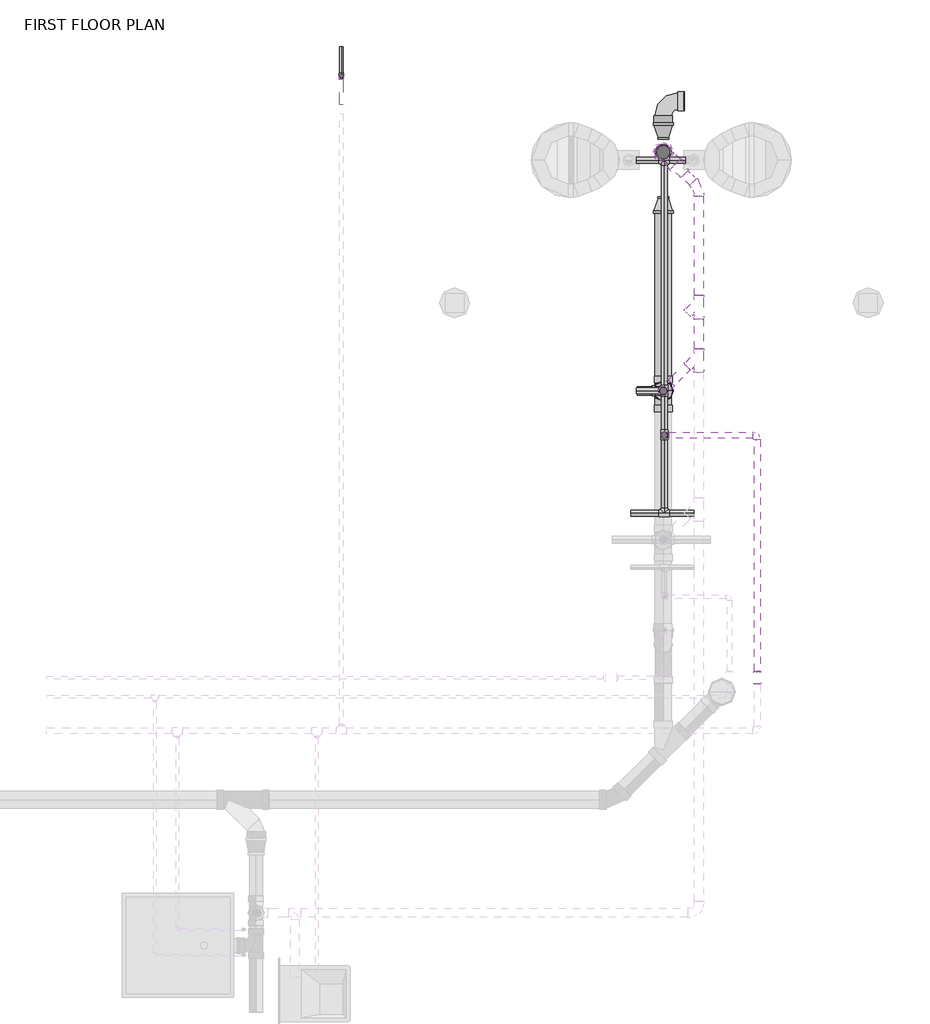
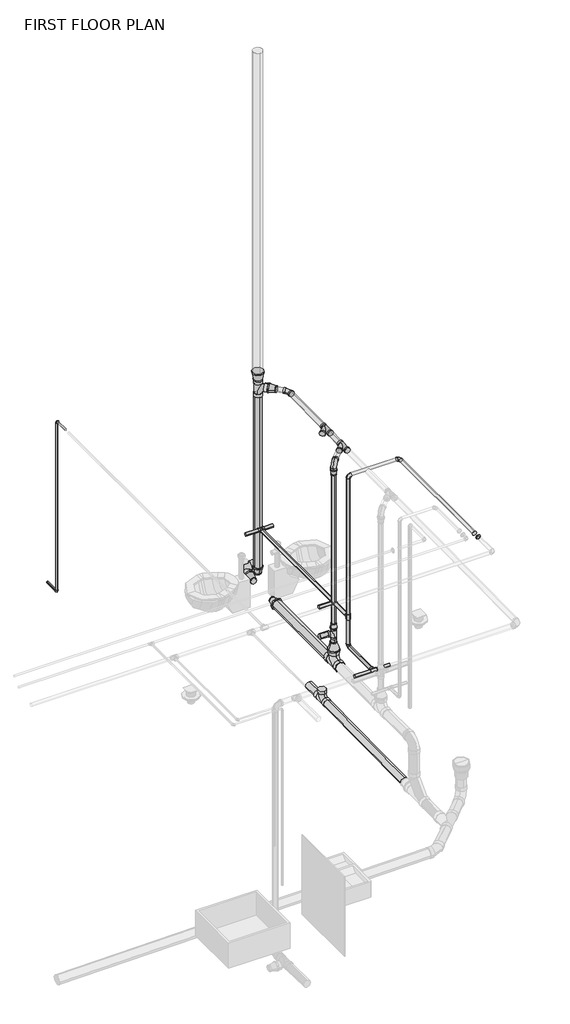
# One storey, part 9 of 9: 29 pipe segments, 28 pipe fittings.
"""IFC4 building model written with IfcOpenShell, lengths in millimetres."""

from ifc_helpers import new_model, si_unit, point, frame, frame_2d, origin, place, context, project, spatial, circle_curve, trimmed, segment, composite_curve, outline, extrude, transform, mapped, element, save
from components import bend_pvc_sch_40_dwv_standard_1fb0f857, bend_pvc_sch_40_dwv_standard_8477e1e2, bend_pvc_sch_40_dwv_standard_6afe43e3, coupling_concentric_reducing_threaded_mi_class_150_standard_e5de6db7, coupling_concentric_reducing_threaded_mi_class_150_standard_b08cc743, coupling_concentric_reducing_threaded_mi_class_150_standard_6ad044ed, coupling_concentric_reducing_threaded_mi_class_150_standard_42f7e852, coupling_concentric_reducing_threaded_mi_class_150_standard_f28a3886, coupling_concentric_reducing_threaded_mi_class_150_standard_510ae21c, coupling_concentric_reducing_threaded_mi_class_150_standard_07b3985c, ges_wye_45_deg_reducing_pvc_sch_40_dwv_standard_a890de96, ges_wye_45_deg_reducing_pvc_sch_40_dwv_standard_77a13697, pipe_elbow_copper_k_feaaf02c, pipe_elbow_copper_k_557be1fc, pipe_tee_copper_k_7127fd44, pipe_transition_copper_k_c7248b3c, tee_sanitary_pvc_sch_40_dwv_standard_dcb2d9f4, tee_sanitary_pvc_sch_40_dwv_standard_21fefaed, tee_sanitary_pvc_sch_40_dwv_standard_c52e2169, tee_sanitary_pvc_sch_40_dwv_standard_29521979

model = new_model("IFC4")

# Units and contexts
model_context = context("Model", 3, world=origin())
ifc_project = project(units=[si_unit("LENGTHUNIT", "METRE", prefix="MILLI")], contexts=[model_context])

# Site, building, storey
site = spatial("IfcSite", under=ifc_project)
building = spatial("IfcBuilding", under=site)
storey = spatial("IfcBuildingStorey", under=building, Name="FIRST FLOOR PLAN", Elevation=0.0)

# Pipe fittings
placement = place(None, origin())
bend_pvc_sch_40_dwv_standard_shape = bend_pvc_sch_40_dwv_standard_1fb0f857(model_context)
element("IfcPipeFitting", 1, ObjectType="Bend - PVC - Sch 40 - DWV : Standard", at=placement, inside=storey, context=model_context, shape_type="MappedRepresentation", body=[
    mapped(bend_pvc_sch_40_dwv_standard_shape, transform((37521.1703511, 9997.0254146, 236.474), x_axis=(-1.0, 0.0, 0.0), y_axis=(0.0, -1.0, 0.0), z_axis=(0.0, 0.0, 1.0))),
])
bend_pvc_sch_40_dwv_standard_2_shape = bend_pvc_sch_40_dwv_standard_8477e1e2(model_context)
element("IfcPipeFitting", 2, ObjectType="Bend - PVC - Sch 40 - DWV : Standard", at=placement, inside=storey, context=model_context, shape_type="MappedRepresentation", body=[
    mapped(bend_pvc_sch_40_dwv_standard_2_shape, transform((37765.6323727, 9404.4624707, 2845.1446491), x_axis=(0.0, 0.9999457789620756, 0.010413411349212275), y_axis=(-0.9999906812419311, -4.495583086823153e-05, 0.004316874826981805), z_axis=(0.0043171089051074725, -0.01041331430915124, 0.9999364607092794))),
])
bend_pvc_sch_40_dwv_standard_3_shape = bend_pvc_sch_40_dwv_standard_6afe43e3(model_context)
element("IfcPipeFitting", 3, ObjectType="Bend - PVC - Sch 40 - DWV : Standard", at=placement, inside=storey, context=model_context, shape_type="MappedRepresentation", body=[
    mapped(bend_pvc_sch_40_dwv_standard_3_shape, transform((37521.0771249, 8018.3324297, 2831.6578247), x_axis=(0.0, 0.0, 1.0), y_axis=(0.7071188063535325, 0.7070947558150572, 0.0), z_axis=(-0.7070947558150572, 0.7071188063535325, 0.0))),
])
coupling_concentric_reducing_threaded_mi_class_150_standard_shape = coupling_concentric_reducing_threaded_mi_class_150_standard_e5de6db7(model_context)
element("IfcPipeFitting", 4, ObjectType="Coupling Concentric Reducing - Threaded - MI - Class 150 : Standard", at=placement, inside=storey, context=model_context, shape_type="MappedRepresentation", body=[
    mapped(coupling_concentric_reducing_threaded_mi_class_150_standard_shape, transform((37521.1703511, 9737.7105294, 236.474), x_axis=(0.0, 1.0, 0.0), y_axis=(-1.0, 0.0, 0.0), z_axis=(0.0, 0.0, 1.0))),
])
coupling_concentric_reducing_threaded_mi_class_150_standard_2_shape = coupling_concentric_reducing_threaded_mi_class_150_standard_b08cc743(model_context)
element("IfcPipeFitting", 5, ObjectType="Coupling Concentric Reducing - Threaded - MI - Class 150 : Standard", at=placement, inside=storey, context=model_context, shape_type="MappedRepresentation", body=[
    mapped(coupling_concentric_reducing_threaded_mi_class_150_standard_2_shape, transform((37521.1703511, 9232.7105294, 236.474), x_axis=(0.0, 1.0, 0.0), y_axis=(-1.0, 0.0, 0.0), z_axis=(0.0, 0.0, 1.0))),
])
element("IfcPipeFitting", 6, ObjectType="Coupling Concentric Reducing - Threaded - MI - Class 150 : Standard", at=placement, inside=storey, context=model_context, shape_type="MappedRepresentation", body=[
    mapped(coupling_concentric_reducing_threaded_mi_class_150_standard_2_shape, transform((37521.0771249, 8018.3324297, 379.349), x_axis=(0.0, 0.0, 1.0), y_axis=(-1.0, 0.0, 0.0), z_axis=(0.0, -1.0, 0.0))),
])
coupling_concentric_reducing_threaded_mi_class_150_standard_3_shape = coupling_concentric_reducing_threaded_mi_class_150_standard_6ad044ed(model_context)
element("IfcPipeFitting", 7, ObjectType="Coupling Concentric Reducing - Threaded - MI - Class 150 : Standard", at=placement, inside=storey, context=model_context, shape_type="MappedRepresentation", body=[
    mapped(coupling_concentric_reducing_threaded_mi_class_150_standard_3_shape, transform((37521.0771249, 8018.3324297, 664.4328283), x_axis=(0.0, 0.0, 1.0), y_axis=(-1.0, 0.0, 0.0), z_axis=(0.0, -1.0, 0.0))),
])
coupling_concentric_reducing_threaded_mi_class_150_standard_4_shape = coupling_concentric_reducing_threaded_mi_class_150_standard_42f7e852(model_context)
element("IfcPipeFitting", 8, ObjectType="Coupling Concentric Reducing - Threaded - MI - Class 150 : Standard", at=placement, inside=storey, context=model_context, shape_type="MappedRepresentation", body=[
    mapped(coupling_concentric_reducing_threaded_mi_class_150_standard_4_shape, transform((37521.0459599, 9649.0444412, 395.224), x_axis=(0.0, 0.0, 1.0), y_axis=(0.0, 1.0, 0.0), z_axis=(-1.0, 0.0, 0.0))),
])
coupling_concentric_reducing_threaded_mi_class_150_standard_5_shape = coupling_concentric_reducing_threaded_mi_class_150_standard_f28a3886(model_context)
element("IfcPipeFitting", 9, ObjectType="Coupling Concentric Reducing - Threaded - MI - Class 150 : Standard", at=placement, inside=storey, context=model_context, shape_type="MappedRepresentation", body=[
    mapped(coupling_concentric_reducing_threaded_mi_class_150_standard_5_shape, transform((37521.0771249, 8018.3324297, 2682.4576247), x_axis=(0.0, 0.0, 1.0), y_axis=(-0.7071259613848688, 0.7070876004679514, 0.0), z_axis=(-0.7070876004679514, -0.7071259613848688, 0.0))),
])
coupling_concentric_reducing_threaded_mi_class_150_standard_6_shape = coupling_concentric_reducing_threaded_mi_class_150_standard_510ae21c(model_context)
element("IfcPipeFitting", 10, ObjectType="Coupling Concentric Reducing - Threaded - MI - Class 150 : Standard", at=placement, inside=storey, context=model_context, shape_type="MappedRepresentation", body=[
    mapped(coupling_concentric_reducing_threaded_mi_class_150_standard_6_shape, transform((37602.9911958, 9567.0983439, 2848.3373916), x_axis=(0.7070327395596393, -0.7070401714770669, -0.01410323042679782), y_axis=(0.7071104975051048, 0.7071030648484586, 0.0), z_axis=(0.009972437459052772, -0.009972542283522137, 0.9999005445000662))),
])
coupling_concentric_reducing_threaded_mi_class_150_standard_7_shape = coupling_concentric_reducing_threaded_mi_class_150_standard_07b3985c(model_context)
element("IfcPipeFitting", 11, ObjectType="Coupling Concentric Reducing - Threaded - MI - Class 150 : Standard", at=placement, inside=storey, context=model_context, shape_type="MappedRepresentation", body=[
    mapped(coupling_concentric_reducing_threaded_mi_class_150_standard_7_shape, transform((37521.0459599, 9649.0444412, 2937.2363254), x_axis=(0.0, 0.0, 1.0), y_axis=(-0.7071030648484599, 0.7071104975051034, 0.0), z_axis=(-0.7071104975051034, -0.7071030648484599, 0.0))),
])
ges_wye_45_deg_reducing_pvc_sch_40_dwv_standard_shape = ges_wye_45_deg_reducing_pvc_sch_40_dwv_standard_a890de96(model_context)
element("IfcPipeFitting", 12, ObjectType="GES Wye 45 Deg Reducing - PVC - Sch 40 - DWV : Standard", at=placement, inside=storey, context=model_context, shape_type="MappedRepresentation", body=[
    mapped(ges_wye_45_deg_reducing_pvc_sch_40_dwv_standard_shape, transform((37765.6323727, 8262.8793597, 2833.3115576), x_axis=(0.0, 0.9999457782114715, 0.01041348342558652), y_axis=(0.9999933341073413, 3.80223943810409e-05, -0.0036510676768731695), z_axis=(-0.003651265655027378, 0.0104134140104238, -0.9999391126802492))),
])
ges_wye_45_deg_reducing_pvc_sch_40_dwv_standard_2_shape = ges_wye_45_deg_reducing_pvc_sch_40_dwv_standard_77a13697(model_context)
element("IfcPipeFitting", 13, ObjectType="GES Wye 45 Deg Reducing - PVC - Sch 40 - DWV : Standard", at=placement, inside=storey, context=model_context, shape_type="MappedRepresentation", body=[
    mapped(ges_wye_45_deg_reducing_pvc_sch_40_dwv_standard_2_shape, transform((37765.6323727, 8627.6807994, 2837.1106024), x_axis=(0.0, 0.999945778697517, 0.010413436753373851), y_axis=(0.9999999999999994, -3.585833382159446e-10, 3.443281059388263e-08), z_axis=(3.44346776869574e-08, 0.010413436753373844, -0.9999457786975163))),
])
pipe_elbow_copper_k_shape = pipe_elbow_copper_k_feaaf02c(model_context)
element("IfcPipeFitting", 14, ObjectType="Pipe Elbow : Copper- K", at=placement, inside=storey, context=model_context, shape_type="MappedRepresentation", body=[
    mapped(pipe_elbow_copper_k_shape, transform((35321.9240213, 10166.9205406, 2847.578125), x_axis=(0.0, 1.0, 0.0), y_axis=(0.0, 0.0, -1.0), z_axis=(-1.0, 0.0, 0.0))),
])
element("IfcPipeFitting", 15, ObjectType="Pipe Elbow : Copper- K", at=placement, inside=storey, context=model_context, shape_type="MappedRepresentation", body=[
    mapped(pipe_elbow_copper_k_shape, transform((35321.9240213, 10166.9205406, 609.6), x_axis=(0.0, 0.0, -1.0), y_axis=(0.0, 1.0, 0.0), z_axis=(1.0, 0.0, 0.0))),
])
pipe_elbow_copper_k_2_shape = pipe_elbow_copper_k_557be1fc(model_context)
element("IfcPipeFitting", 16, ObjectType="Pipe Elbow : Copper- K", at=placement, inside=storey, context=model_context, shape_type="MappedRepresentation", body=[
    mapped(pipe_elbow_copper_k_2_shape, transform((38162.9555388, 7715.2433828, 2847.578125), x_axis=(0.0, 0.9999999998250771, 1.870416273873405e-05), y_axis=(-1.0, 0.0, 0.0), z_axis=(0.0, -1.870416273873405e-05, 0.9999999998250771))),
])
element("IfcPipeFitting", 17, ObjectType="Pipe Elbow : Copper- K", at=placement, inside=storey, context=model_context, shape_type="MappedRepresentation", body=[
    mapped(pipe_elbow_copper_k_2_shape, transform((37527.9555388, 7715.2433828, 2847.578125), x_axis=(-1.0, 0.0, 0.0), y_axis=(0.0, 0.0, -1.0), z_axis=(0.0, -1.0, 0.0))),
])
element("IfcPipeFitting", 18, ObjectType="Pipe Elbow : Copper- K", at=placement, inside=storey, context=model_context, shape_type="MappedRepresentation", body=[
    mapped(pipe_elbow_copper_k_2_shape, transform((37527.9555388, 7715.2433828, 612.378125), x_axis=(0.0, 0.0, -1.0), y_axis=(0.0, -1.0, 0.0), z_axis=(-1.0, 0.0, 0.0))),
])
pipe_tee_copper_k_shape = pipe_tee_copper_k_7127fd44(model_context)
element("IfcPipeFitting", 19, ObjectType="Pipe Tee : Copper- K", at=placement, inside=storey, context=model_context, shape_type="MappedRepresentation", body=[
    mapped(pipe_tee_copper_k_shape, transform((37527.9555388, 7181.8433828, 612.378125), x_axis=(-1.0, 0.0, 0.0), y_axis=(0.0, -1.0, 0.0), z_axis=(0.0, 0.0, 1.0))),
])
element("IfcPipeFitting", 20, ObjectType="Pipe Tee : Copper- K", at=placement, inside=storey, context=model_context, shape_type="MappedRepresentation", body=[
    mapped(pipe_tee_copper_k_shape, transform((37527.9555388, 7715.2433828, 999.6546981), x_axis=(0.0, 0.0, 1.0), y_axis=(0.0, -1.0, 0.0), z_axis=(1.0, 0.0, 0.0))),
])
element("IfcPipeFitting", 21, ObjectType="Pipe Tee : Copper- K", at=placement, inside=storey, context=model_context, shape_type="MappedRepresentation", body=[
    mapped(pipe_tee_copper_k_shape, transform((37527.9555388, 9594.8433828, 999.6546981), x_axis=(-0.999999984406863, 0.0, 0.00017659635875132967), y_axis=(0.0, 1.0000000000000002, 0.0), z_axis=(-0.00017659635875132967, 0.0, -0.999999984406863))),
])
element("IfcPipeFitting", 22, ObjectType="Pipe Tee : Copper- K", at=placement, inside=storey, context=model_context, shape_type="MappedRepresentation", body=[
    mapped(pipe_tee_copper_k_shape, transform((37527.9555388, 8020.0433828, 999.6546981), x_axis=(0.0, -1.0, 0.0), y_axis=(0.999999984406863, 0.0, -0.00017659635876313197), z_axis=(0.00017659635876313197, 0.0, 0.999999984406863))),
])
pipe_transition_copper_k_shape = pipe_transition_copper_k_c7248b3c(model_context)
element("IfcPipeFitting", 23, ObjectType="Pipe Transition : Copper- K", at=placement, inside=storey, context=model_context, shape_type="MappedRepresentation", body=[
    mapped(pipe_transition_copper_k_shape, transform((38162.9555388, 6013.5885474, 2847.5469472), x_axis=(0.0, 0.9999999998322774, 1.8315168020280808e-05), y_axis=(-1.0000000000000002, 0.0, 0.0), z_axis=(0.0, -1.8315168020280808e-05, 0.9999999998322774))),
])
element("IfcPipeFitting", 24, ObjectType="Pipe Transition : Copper- K", at=placement, inside=storey, context=model_context, shape_type="MappedRepresentation", body=[
    mapped(pipe_transition_copper_k_shape, transform((38162.9555388, 6104.8062974, 2847.5486178), x_axis=(0.0, -0.9999999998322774, -1.8315168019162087e-05), y_axis=(1.0000000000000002, 0.0, 0.0), z_axis=(0.0, -1.8315168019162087e-05, 0.9999999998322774))),
])
tee_sanitary_pvc_sch_40_dwv_standard_shape = tee_sanitary_pvc_sch_40_dwv_standard_dcb2d9f4(model_context)
element("IfcPipeFitting", 25, ObjectType="Tee Sanitary - PVC - Sch 40 - DWV : Standard", at=placement, inside=storey, context=model_context, shape_type="MappedRepresentation", body=[
    mapped(tee_sanitary_pvc_sch_40_dwv_standard_shape, transform((37521.1703511, 8018.2530175, 236.474), x_axis=(0.0, 1.0, 0.0), y_axis=(0.0, 0.0, -1.0), z_axis=(-1.0, 0.0, 0.0))),
])
tee_sanitary_pvc_sch_40_dwv_standard_2_shape = tee_sanitary_pvc_sch_40_dwv_standard_21fefaed(model_context)
element("IfcPipeFitting", 26, ObjectType="Tee Sanitary - PVC - Sch 40 - DWV : Standard", at=placement, inside=storey, context=model_context, shape_type="MappedRepresentation", body=[
    mapped(tee_sanitary_pvc_sch_40_dwv_standard_2_shape, transform((37521.0771249, 8018.3324297, 610.4573418), x_axis=(0.0, 0.0, 1.0), y_axis=(1.0, 0.0, 0.0), z_axis=(0.0, 1.0, 0.0))),
])
tee_sanitary_pvc_sch_40_dwv_standard_3_shape = tee_sanitary_pvc_sch_40_dwv_standard_c52e2169(model_context)
element("IfcPipeFitting", 27, ObjectType="Tee Sanitary - PVC - Sch 40 - DWV : Standard", at=placement, inside=storey, context=model_context, shape_type="MappedRepresentation", body=[
    mapped(tee_sanitary_pvc_sch_40_dwv_standard_3_shape, transform((37521.0459599, 9649.0444412, 2849.9719588), x_axis=(0.0, 0.0, 1.0), y_axis=(-0.7071030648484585, 0.7071104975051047, 0.0), z_axis=(-0.7071104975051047, -0.7071030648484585, 0.0))),
])
tee_sanitary_pvc_sch_40_dwv_standard_4_shape = tee_sanitary_pvc_sch_40_dwv_standard_29521979(model_context)
element("IfcPipeFitting", 28, ObjectType="Tee Sanitary - PVC - Sch 40 - DWV : Standard", at=placement, inside=storey, context=model_context, shape_type="MappedRepresentation", body=[
    mapped(tee_sanitary_pvc_sch_40_dwv_standard_4_shape, transform((37521.1938332, 8268.031938, -404.5109824), x_axis=(-2.3000987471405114e-08, 0.9999201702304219, 0.012635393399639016), y_axis=(-2.9064972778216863e-10, 0.012635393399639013, -0.9999201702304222), z_axis=(-0.9999999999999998, -2.3002823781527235e-08, 0.0))),
])

# Pipe segments
element("IfcPipeSegment", 29, ObjectType="Copper", at=placement, inside=storey, context=model_context, shape_type="SweptSolid", body=[
    extrude(outline(composite_curve([segment(trimmed(circle_curve(frame_2d((0.0, 20.6375)), 20.6375), [point((0.0, 41.275))], [point((20.6375, 20.6375))], False, "CARTESIAN"), True, "CONTINUOUS"), segment(trimmed(circle_curve(frame_2d((0.0, 20.6375)), 20.6375), [point((20.6375, 20.6375))], [point((0.0, 0.0))], False, "CARTESIAN"), True, "CONTINUOUS"), segment(trimmed(circle_curve(frame_2d((0.0, 20.6375)), 20.6375), [point((0.0, 0.0))], [point((-20.6375, 20.6375))], False, "CARTESIAN"), True, "CONTINUOUS"), segment(trimmed(circle_curve(frame_2d((0.0, 20.6375)), 20.6375), [point((-20.6375, 20.6375))], [point((0.0, 41.275))], False, "CARTESIAN"), True, "CONTINUOUS")], self_intersect=False)), frame((38142.3180388, 6104.8062974, 2847.5486178), z_axis=(0.0, 0.9999999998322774, 1.831516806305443e-05), x_axis=(0.0, -1.831516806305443e-05, 0.9999999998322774)), (0.0, 0.0, 1.0), 1580.2745857),
])
element("IfcPipeSegment", 30, ObjectType="Copper", at=placement, inside=storey, context=model_context, shape_type="SweptSolid", body=[
    extrude(outline(composite_curve([segment(trimmed(circle_curve(frame_2d((7715.2433828, 2847.578125)), 20.6375), [point((7735.8808828, 2847.578125))], [point((7715.2433828, 2826.940625))], False, "CARTESIAN"), True, "CONTINUOUS"), segment(trimmed(circle_curve(frame_2d((7715.2433828, 2847.578125)), 20.6375), [point((7715.2433828, 2826.940625))], [point((7694.6058828, 2847.578125))], False, "CARTESIAN"), True, "CONTINUOUS"), segment(trimmed(circle_curve(frame_2d((7715.2433828, 2847.578125)), 20.6375), [point((7694.6058828, 2847.578125))], [point((7715.2433828, 2868.215625))], False, "CARTESIAN"), True, "CONTINUOUS"), segment(trimmed(circle_curve(frame_2d((7715.2433828, 2847.578125)), 20.6375), [point((7715.2433828, 2868.215625))], [point((7735.8808828, 2847.578125))], False, "CARTESIAN"), True, "CONTINUOUS")], self_intersect=False)), frame((37558.1180388, 0.0, 0.0), z_axis=(1.0, 0.0, 0.0), x_axis=(0.0, 1.0, 0.0)), (0.0, 0.0, 1.0), 574.675),
])
element("IfcPipeSegment", 31, ObjectType="Copper", at=placement, inside=storey, context=model_context, shape_type="SweptSolid", body=[
    extrude(outline(composite_curve([segment(trimmed(circle_curve(frame_2d((612.378125, 37527.9555388)), 20.6375), [point((612.378125, 37507.3180388))], [point((591.740625, 37527.9555388))], False, "CARTESIAN"), True, "CONTINUOUS"), segment(trimmed(circle_curve(frame_2d((612.378125, 37527.9555388)), 20.6375), [point((591.740625, 37527.9555388))], [point((612.378125, 37548.5930388))], False, "CARTESIAN"), True, "CONTINUOUS"), segment(trimmed(circle_curve(frame_2d((612.378125, 37527.9555388)), 20.6375), [point((612.378125, 37548.5930388))], [point((633.015625, 37527.9555388))], False, "CARTESIAN"), True, "CONTINUOUS"), segment(trimmed(circle_curve(frame_2d((612.378125, 37527.9555388)), 20.6375), [point((633.015625, 37527.9555388))], [point((612.378125, 37507.3180388))], False, "CARTESIAN"), True, "CONTINUOUS")], self_intersect=False)), frame((0.0, 7218.3558828, 0.0), z_axis=(0.0, 1.0, 0.0), x_axis=(0.0, 0.0, 1.0)), (0.0, 0.0, 1.0), 466.725),
])
element("IfcPipeSegment", 32, ObjectType="Copper", at=placement, inside=storey, context=model_context, shape_type="SweptSolid", body=[
    extrude(outline(composite_curve([segment(trimmed(circle_curve(frame_2d((7181.8433828, 612.378125)), 20.6375), [point((7161.2058828, 612.378125))], [point((7181.8433828, 633.015625))], False, "CARTESIAN"), True, "CONTINUOUS"), segment(trimmed(circle_curve(frame_2d((7181.8433828, 612.378125)), 20.6375), [point((7181.8433828, 633.015625))], [point((7202.4808828, 612.378125))], False, "CARTESIAN"), True, "CONTINUOUS"), segment(trimmed(circle_curve(frame_2d((7181.8433828, 612.378125)), 20.6375), [point((7202.4808828, 612.378125))], [point((7181.8433828, 591.740625))], False, "CARTESIAN"), True, "CONTINUOUS"), segment(trimmed(circle_curve(frame_2d((7181.8433828, 612.378125)), 20.6375), [point((7181.8433828, 591.740625))], [point((7161.2058828, 612.378125))], False, "CARTESIAN"), True, "CONTINUOUS")], self_intersect=False)), frame((37564.4680388, 0.0, 0.0), z_axis=(1.0, 0.0, 0.0), x_axis=(0.0, 1.0, 0.0)), (0.0, 0.0, 1.0), 166.6875),
])
element("IfcPipeSegment", 33, ObjectType="Copper", at=placement, inside=storey, context=model_context, shape_type="SweptSolid", body=[
    extrude(outline(composite_curve([segment(trimmed(circle_curve(frame_2d((7181.8433828, 612.378125)), 20.6375), [point((7161.2058828, 612.378125))], [point((7181.8433828, 633.015625))], False, "CARTESIAN"), True, "CONTINUOUS"), segment(trimmed(circle_curve(frame_2d((7181.8433828, 612.378125)), 20.6375), [point((7181.8433828, 633.015625))], [point((7202.4808828, 612.378125))], False, "CARTESIAN"), True, "CONTINUOUS"), segment(trimmed(circle_curve(frame_2d((7181.8433828, 612.378125)), 20.6375), [point((7202.4808828, 612.378125))], [point((7181.8433828, 591.740625))], False, "CARTESIAN"), True, "CONTINUOUS"), segment(trimmed(circle_curve(frame_2d((7181.8433828, 612.378125)), 20.6375), [point((7181.8433828, 591.740625))], [point((7161.2058828, 612.378125))], False, "CARTESIAN"), True, "CONTINUOUS")], self_intersect=False)), frame((37299.3555388, 0.0, 0.0), z_axis=(1.0, 0.0, 0.0), x_axis=(0.0, 1.0, 0.0)), (0.0, 0.0, 1.0), 192.0875),
])
element("IfcPipeSegment", 34, ObjectType="Copper", at=placement, inside=storey, context=model_context, shape_type="SweptSolid", body=[
    extrude(outline(composite_curve([segment(trimmed(circle_curve(frame_2d((37527.9555388, 7715.2433828)), 20.6375), [point((37548.5930388, 7715.2433828))], [point((37527.9555388, 7694.6058828))], False, "CARTESIAN"), True, "CONTINUOUS"), segment(trimmed(circle_curve(frame_2d((37527.9555388, 7715.2433828)), 20.6375), [point((37527.9555388, 7694.6058828))], [point((37507.3180388, 7715.2433828))], False, "CARTESIAN"), True, "CONTINUOUS"), segment(trimmed(circle_curve(frame_2d((37527.9555388, 7715.2433828)), 20.6375), [point((37507.3180388, 7715.2433828))], [point((37527.9555388, 7735.8808828))], False, "CARTESIAN"), True, "CONTINUOUS"), segment(trimmed(circle_curve(frame_2d((37527.9555388, 7715.2433828)), 20.6375), [point((37527.9555388, 7735.8808828))], [point((37548.5930388, 7715.2433828))], False, "CARTESIAN"), True, "CONTINUOUS")], self_intersect=False)), frame((0.0, 0.0, 642.540625), z_axis=(0.0, 0.0, 1.0), x_axis=(1.0, 0.0, 0.0)), (0.0, 0.0, 1.0), 320.6015731),
])
element("IfcPipeSegment", 35, ObjectType="Copper", at=placement, inside=storey, context=model_context, shape_type="SweptSolid", body=[
    extrude(outline(composite_curve([segment(trimmed(circle_curve(frame_2d((0.0, -20.6375)), 20.6375), [point((-20.6375, -20.6375))], [point((0.0, 0.0))], False, "CARTESIAN"), True, "CONTINUOUS"), segment(trimmed(circle_curve(frame_2d((0.0, -20.6375)), 20.6375), [point((0.0, 0.0))], [point((20.6375, -20.6375))], False, "CARTESIAN"), True, "CONTINUOUS"), segment(trimmed(circle_curve(frame_2d((0.0, -20.6375)), 20.6375), [point((20.6375, -20.6375))], [point((0.0, -41.2749999))], False, "CARTESIAN"), True, "CONTINUOUS"), segment(trimmed(circle_curve(frame_2d((0.0, -20.6375)), 20.6375), [point((0.0, -41.2749999))], [point((-20.6375, -20.6375))], False, "CARTESIAN"), True, "CONTINUOUS")], self_intersect=False)), frame((37674.0018943, 9594.8433828, 978.9914066), z_axis=(-0.999999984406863, 0.0, 0.00017659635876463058), x_axis=(0.0, 1.0, 0.0)), (0.0, 0.0, 1.0), 109.5375023),
])
element("IfcPipeSegment", 36, ObjectType="Copper", at=placement, inside=storey, context=model_context, shape_type="SweptSolid", body=[
    extrude(outline(composite_curve([segment(trimmed(circle_curve(frame_2d((37527.9555388, 7715.2433828)), 20.6375), [point((37548.5930388, 7715.2433828))], [point((37527.9555388, 7694.6058828))], False, "CARTESIAN"), True, "CONTINUOUS"), segment(trimmed(circle_curve(frame_2d((37527.9555388, 7715.2433828)), 20.6375), [point((37527.9555388, 7694.6058828))], [point((37507.3180388, 7715.2433828))], False, "CARTESIAN"), True, "CONTINUOUS"), segment(trimmed(circle_curve(frame_2d((37527.9555388, 7715.2433828)), 20.6375), [point((37507.3180388, 7715.2433828))], [point((37527.9555388, 7735.8808828))], False, "CARTESIAN"), True, "CONTINUOUS"), segment(trimmed(circle_curve(frame_2d((37527.9555388, 7715.2433828)), 20.6375), [point((37527.9555388, 7735.8808828))], [point((37548.5930388, 7715.2433828))], False, "CARTESIAN"), True, "CONTINUOUS")], self_intersect=False)), frame((0.0, 0.0, 1036.1671981), z_axis=(0.0, 0.0, 1.0), x_axis=(1.0, 0.0, 0.0)), (0.0, 0.0, 1.0), 1781.2484269),
])
element("IfcPipeSegment", 37, ObjectType="Copper", at=placement, inside=storey, context=model_context, shape_type="SweptSolid", body=[
    extrude(outline(composite_curve([segment(trimmed(circle_curve(frame_2d((0.0, -20.6375)), 20.6375), [point((-20.6375, -20.6375))], [point((0.0, 0.0))], False, "CARTESIAN"), True, "CONTINUOUS"), segment(trimmed(circle_curve(frame_2d((0.0, -20.6375)), 20.6375), [point((0.0, 0.0))], [point((20.6375, -20.6375))], False, "CARTESIAN"), True, "CONTINUOUS"), segment(trimmed(circle_curve(frame_2d((0.0, -20.6375)), 20.6375), [point((20.6375, -20.6375))], [point((0.0, -41.275))], False, "CARTESIAN"), True, "CONTINUOUS"), segment(trimmed(circle_curve(frame_2d((0.0, -20.6375)), 20.6375), [point((0.0, -41.275))], [point((-20.6375, -20.6375))], False, "CARTESIAN"), True, "CONTINUOUS")], self_intersect=False)), frame((37491.4393949, 9594.8433828, 979.0236464), z_axis=(-0.999999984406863, 0.0, 0.00017659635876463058), x_axis=(0.0, 1.0, 0.0)), (0.0, 0.0, 1.0), 153.9874977),
])
element("IfcPipeSegment", 38, ObjectType="Copper", at=placement, inside=storey, context=model_context, shape_type="SweptSolid", body=[
    extrude(outline(composite_curve([segment(trimmed(circle_curve(frame_2d((0.0, 20.6375)), 20.6375), [point((-20.6375, 20.6375))], [point((0.0, 41.275))], False, "CARTESIAN"), True, "CONTINUOUS"), segment(trimmed(circle_curve(frame_2d((0.0, 20.6375)), 20.6375), [point((0.0, 41.275))], [point((20.6375, 20.6375))], False, "CARTESIAN"), True, "CONTINUOUS"), segment(trimmed(circle_curve(frame_2d((0.0, 20.6375)), 20.6375), [point((20.6375, 20.6375))], [point((0.0, 0.0))], False, "CARTESIAN"), True, "CONTINUOUS"), segment(trimmed(circle_curve(frame_2d((0.0, 20.6375)), 20.6375), [point((0.0, 0.0))], [point((-20.6375, 20.6375))], False, "CARTESIAN"), True, "CONTINUOUS")], self_intersect=False)), frame((37491.4393949, 8020.0433828, 979.0236464), z_axis=(-0.999999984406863, 0.0, 0.00017659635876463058), x_axis=(0.0, -1.0, 0.0)), (0.0, 0.0, 1.0), 153.9874977),
])
element("IfcPipeSegment", 39, ObjectType="Copper", at=placement, inside=storey, context=model_context, shape_type="SweptSolid", body=[
    extrude(outline(composite_curve([segment(trimmed(circle_curve(frame_2d((999.6546981, 37527.9555388)), 20.6375), [point((999.6546981, 37548.5930388))], [point((1020.2921981, 37527.9555388))], False, "CARTESIAN"), True, "CONTINUOUS"), segment(trimmed(circle_curve(frame_2d((999.6546981, 37527.9555388)), 20.6375), [point((1020.2921981, 37527.9555388))], [point((999.6546981, 37507.3180388))], False, "CARTESIAN"), True, "CONTINUOUS"), segment(trimmed(circle_curve(frame_2d((999.6546981, 37527.9555388)), 20.6375), [point((999.6546981, 37507.3180388))], [point((979.0171981, 37527.9555388))], False, "CARTESIAN"), True, "CONTINUOUS"), segment(trimmed(circle_curve(frame_2d((999.6546981, 37527.9555388)), 20.6375), [point((979.0171981, 37527.9555388))], [point((999.6546981, 37548.5930388))], False, "CARTESIAN"), True, "CONTINUOUS")], self_intersect=False)), frame((0.0, 8056.5558828, 0.0), z_axis=(0.0, 1.0, 0.0), x_axis=(0.0, 0.0, 1.0)), (0.0, 0.0, 1.0), 1501.775),
])
element("IfcPipeSegment", 40, ObjectType="Copper", at=placement, inside=storey, context=model_context, shape_type="SweptSolid", body=[
    extrude(outline(composite_curve([segment(trimmed(circle_curve(frame_2d((999.6546981, 37527.9555388)), 20.6375), [point((999.6546981, 37548.5930388))], [point((1020.2921981, 37527.9555388))], False, "CARTESIAN"), True, "CONTINUOUS"), segment(trimmed(circle_curve(frame_2d((999.6546981, 37527.9555388)), 20.6375), [point((1020.2921981, 37527.9555388))], [point((999.6546981, 37507.3180388))], False, "CARTESIAN"), True, "CONTINUOUS"), segment(trimmed(circle_curve(frame_2d((999.6546981, 37527.9555388)), 20.6375), [point((999.6546981, 37507.3180388))], [point((979.0171981, 37527.9555388))], False, "CARTESIAN"), True, "CONTINUOUS"), segment(trimmed(circle_curve(frame_2d((999.6546981, 37527.9555388)), 20.6375), [point((979.0171981, 37527.9555388))], [point((999.6546981, 37548.5930388))], False, "CARTESIAN"), True, "CONTINUOUS")], self_intersect=False)), frame((0.0, 7751.7558828, 0.0), z_axis=(0.0, 1.0, 0.0), x_axis=(0.0, 0.0, 1.0)), (0.0, 0.0, 1.0), 231.775),
])
element("IfcPipeSegment", 41, ObjectType="Copper", at=placement, inside=storey, context=model_context, shape_type="SweptSolid", body=[
    extrude(outline(composite_curve([segment(trimmed(circle_curve(frame_2d((2847.578125, 35321.9240213)), 11.1125), [point((2847.578125, 35333.0365213))], [point((2858.690625, 35321.9240213))], False, "CARTESIAN"), True, "CONTINUOUS"), segment(trimmed(circle_curve(frame_2d((2847.578125, 35321.9240213)), 11.1125), [point((2858.690625, 35321.9240213))], [point((2847.578125, 35310.8115213))], False, "CARTESIAN"), True, "CONTINUOUS"), segment(trimmed(circle_curve(frame_2d((2847.578125, 35321.9240213)), 11.1125), [point((2847.578125, 35310.8115213))], [point((2836.465625, 35321.9240213))], False, "CARTESIAN"), True, "CONTINUOUS"), segment(trimmed(circle_curve(frame_2d((2847.578125, 35321.9240213)), 11.1125), [point((2836.465625, 35321.9240213))], [point((2847.578125, 35333.0365213))], False, "CARTESIAN"), True, "CONTINUOUS")], self_intersect=False)), frame((0.0, 9970.6285294, 0.0), z_axis=(0.0, 1.0, 0.0), x_axis=(0.0, 0.0, 1.0)), (0.0, 0.0, 1.0), 175.6545112),
])
element("IfcPipeSegment", 42, ObjectType="Copper", at=placement, inside=storey, context=model_context, shape_type="SweptSolid", body=[
    extrude(outline(composite_curve([segment(trimmed(circle_curve(frame_2d((609.6, 35321.9240213)), 11.1125), [point((609.6, 35333.0365213))], [point((620.7125, 35321.9240213))], False, "CARTESIAN"), True, "CONTINUOUS"), segment(trimmed(circle_curve(frame_2d((609.6, 35321.9240213)), 11.1125), [point((620.7125, 35321.9240213))], [point((609.6, 35310.8115213))], False, "CARTESIAN"), True, "CONTINUOUS"), segment(trimmed(circle_curve(frame_2d((609.6, 35321.9240213)), 11.1125), [point((609.6, 35310.8115213))], [point((598.4875, 35321.9240213))], False, "CARTESIAN"), True, "CONTINUOUS"), segment(trimmed(circle_curve(frame_2d((609.6, 35321.9240213)), 11.1125), [point((598.4875, 35321.9240213))], [point((609.6, 35333.0365213))], False, "CARTESIAN"), True, "CONTINUOUS")], self_intersect=False)), frame((0.0, 10187.5580406, 0.0), z_axis=(0.0, 1.0, 0.0), x_axis=(0.0, 0.0, 1.0)), (0.0, 0.0, 1.0), 182.5625),
])
element("IfcPipeSegment", 43, ObjectType="Copper", at=placement, inside=storey, context=model_context, shape_type="SweptSolid", body=[
    extrude(outline(composite_curve([segment(trimmed(circle_curve(frame_2d((35321.9240213, 10166.9205406)), 11.1125), [point((35333.0365213, 10166.9205406))], [point((35321.9240213, 10155.8080406))], False, "CARTESIAN"), True, "CONTINUOUS"), segment(trimmed(circle_curve(frame_2d((35321.9240213, 10166.9205406)), 11.1125), [point((35321.9240213, 10155.8080406))], [point((35310.8115213, 10166.9205406))], False, "CARTESIAN"), True, "CONTINUOUS"), segment(trimmed(circle_curve(frame_2d((35321.9240213, 10166.9205406)), 11.1125), [point((35310.8115213, 10166.9205406))], [point((35321.9240213, 10178.0330406))], False, "CARTESIAN"), True, "CONTINUOUS"), segment(trimmed(circle_curve(frame_2d((35321.9240213, 10166.9205406)), 11.1125), [point((35321.9240213, 10178.0330406))], [point((35333.0365213, 10166.9205406))], False, "CARTESIAN"), True, "CONTINUOUS")], self_intersect=False)), frame((0.0, 0.0, 630.2375), z_axis=(0.0, 0.0, 1.0), x_axis=(1.0, 0.0, 0.0)), (0.0, 0.0, 1.0), 2196.703125),
])
element("IfcPipeSegment", 44, ObjectType="PVC - SAN/STORM", at=placement, inside=storey, context=model_context, shape_type="SweptSolid", body=[
    extrude(outline(composite_curve([segment(trimmed(circle_curve(frame_2d((0.0, 57.15)), 57.15), [point((0.0, 114.3))], [point((57.15, 57.15))], False, "CARTESIAN"), True, "CONTINUOUS"), segment(trimmed(circle_curve(frame_2d((0.0, 57.15)), 57.15), [point((57.15, 57.15))], [point((0.0, 0.0))], False, "CARTESIAN"), True, "CONTINUOUS"), segment(trimmed(circle_curve(frame_2d((0.0, 57.15)), 57.15), [point((0.0, 0.0))], [point((-57.15, 57.15))], False, "CARTESIAN"), True, "CONTINUOUS"), segment(trimmed(circle_curve(frame_2d((0.0, 57.15)), 57.15), [point((-57.15, 57.15))], [point((0.0, 114.3))], False, "CARTESIAN"), True, "CONTINUOUS")], self_intersect=False)), frame((37464.0203511, 9849.0105294, 236.474), z_axis=(-1.6863547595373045e-12, 1.0, 0.0), x_axis=(0.0, 0.0, 1.0)), (0.0, 0.0, 1.0), 5.1398852),
])
element("IfcPipeSegment", 45, ObjectType="PVC - SAN/STORM", at=placement, inside=storey, context=model_context, shape_type="SweptSolid", body=[
    extrude(outline(composite_curve([segment(trimmed(circle_curve(frame_2d((0.0, 57.15)), 57.15), [point((0.0, 114.3))], [point((57.15, 57.15))], False, "CARTESIAN"), True, "CONTINUOUS"), segment(trimmed(circle_curve(frame_2d((0.0, 57.15)), 57.15), [point((57.15, 57.15))], [point((0.0, 0.0))], False, "CARTESIAN"), True, "CONTINUOUS"), segment(trimmed(circle_curve(frame_2d((0.0, 57.15)), 57.15), [point((0.0, 0.0))], [point((-57.15, 57.15))], False, "CARTESIAN"), True, "CONTINUOUS"), segment(trimmed(circle_curve(frame_2d((0.0, 57.15)), 57.15), [point((-57.15, 57.15))], [point((0.0, 114.3))], False, "CARTESIAN"), True, "CONTINUOUS")], self_intersect=False)), frame((37664.0453511, 9939.8754146, 236.474), z_axis=(-0.9999929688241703, 0.0, 0.0037499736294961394), x_axis=(0.0037499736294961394, 0.0, 0.9999929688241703)), (0.0, 0.0, 1.0), 3.1780911),
])
element("IfcPipeSegment", 46, ObjectType="PVC - SAN/STORM", at=placement, inside=storey, context=model_context, shape_type="SweptSolid", body=[
    extrude(outline(composite_curve([segment(trimmed(circle_curve(frame_2d((236.474, 37521.1703511)), 57.15), [point((236.474, 37578.3203511))], [point((293.624, 37521.1703511))], False, "CARTESIAN"), True, "CONTINUOUS"), segment(trimmed(circle_curve(frame_2d((236.474, 37521.1703511)), 57.15), [point((293.624, 37521.1703511))], [point((236.474, 37464.0203511))], False, "CARTESIAN"), True, "CONTINUOUS"), segment(trimmed(circle_curve(frame_2d((236.474, 37521.1703511)), 57.15), [point((236.474, 37464.0203511))], [point((179.324, 37521.1703511))], False, "CARTESIAN"), True, "CONTINUOUS"), segment(trimmed(circle_curve(frame_2d((236.474, 37521.1703511)), 57.15), [point((179.324, 37521.1703511))], [point((236.474, 37578.3203511))], False, "CARTESIAN"), True, "CONTINUOUS")], self_intersect=False)), frame((0.0, 8119.8530175, 0.0), z_axis=(0.0, 1.0, 0.0), x_axis=(0.0, 0.0, 1.0)), (0.0, 0.0, 1.0), 1112.8575119),
])
element("IfcPipeSegment", 47, ObjectType="PVC - SAN/STORM", at=placement, inside=storey, context=model_context, shape_type="SweptSolid", body=[
    extrude(outline(composite_curve([segment(trimmed(circle_curve(frame_2d((0.0, -30.1625)), 30.1625), [point((0.0, -60.325))], [point((-30.1625, -30.1625))], False, "CARTESIAN"), True, "CONTINUOUS"), segment(trimmed(circle_curve(frame_2d((0.0, -30.1625)), 30.1625), [point((-30.1625, -30.1625))], [point((0.0, 0.0))], False, "CARTESIAN"), True, "CONTINUOUS"), segment(trimmed(circle_curve(frame_2d((0.0, -30.1625)), 30.1625), [point((0.0, 0.0))], [point((30.1625, -30.1625))], False, "CARTESIAN"), True, "CONTINUOUS"), segment(trimmed(circle_curve(frame_2d((0.0, -30.1625)), 30.1625), [point((30.1625, -30.1625))], [point((0.0, -60.325))], False, "CARTESIAN"), True, "CONTINUOUS")], self_intersect=False)), frame((37443.2811455, 8048.4949297, 611.2677166), z_axis=(-0.999945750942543, 0.0, 0.010416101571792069), x_axis=(0.010416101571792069, 0.0, 0.999945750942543)), (0.0, 0.0, 1.0), 98.664221),
])
element("IfcPipeSegment", 48, ObjectType="PVC - SAN/STORM", at=placement, inside=storey, context=model_context, shape_type="SweptSolid", body=[
    extrude(outline(composite_curve([segment(trimmed(circle_curve(frame_2d((37521.0771249, 8018.3324297)), 30.1625), [point((37551.2396249, 8018.3324297))], [point((37521.0771249, 7988.1699297))], False, "CARTESIAN"), True, "CONTINUOUS"), segment(trimmed(circle_curve(frame_2d((37521.0771249, 8018.3324297)), 30.1625), [point((37521.0771249, 7988.1699297))], [point((37490.9146249, 8018.3324297))], False, "CARTESIAN"), True, "CONTINUOUS"), segment(trimmed(circle_curve(frame_2d((37521.0771249, 8018.3324297)), 30.1625), [point((37490.9146249, 8018.3324297))], [point((37521.0771249, 8048.4949297))], False, "CARTESIAN"), True, "CONTINUOUS"), segment(trimmed(circle_curve(frame_2d((37521.0771249, 8018.3324297)), 30.1625), [point((37521.0771249, 8048.4949297))], [point((37551.2396249, 8018.3324297))], False, "CARTESIAN"), True, "CONTINUOUS")], self_intersect=False)), frame((0.0, 0.0, 490.649), z_axis=(0.0, 0.0, 1.0), x_axis=(1.0, 0.0, 0.0)), (0.0, 0.0, 1.0), 42.0081418),
])
element("IfcPipeSegment", 49, ObjectType="PVC - SAN/STORM", at=placement, inside=storey, context=model_context, shape_type="SweptSolid", body=[
    extrude(outline(composite_curve([segment(trimmed(circle_curve(frame_2d((37521.0771249, 8018.3324297)), 24.13), [point((37496.9471249, 8018.3324297))], [point((37521.0771249, 8042.4624297))], False, "CARTESIAN"), True, "CONTINUOUS"), segment(trimmed(circle_curve(frame_2d((37521.0771249, 8018.3324297)), 24.13), [point((37521.0771249, 8042.4624297))], [point((37545.2071249, 8018.3324297))], False, "CARTESIAN"), True, "CONTINUOUS"), segment(trimmed(circle_curve(frame_2d((37521.0771249, 8018.3324297)), 24.13), [point((37545.2071249, 8018.3324297))], [point((37521.0771249, 7994.2024297))], False, "CARTESIAN"), True, "CONTINUOUS"), segment(trimmed(circle_curve(frame_2d((37521.0771249, 8018.3324297)), 24.13), [point((37521.0771249, 7994.2024297))], [point((37496.9471249, 8018.3324297))], False, "CARTESIAN"), True, "CONTINUOUS")], self_intersect=False)), frame((0.0, 0.0, 735.8328283), z_axis=(0.0, 0.0, 1.0), x_axis=(1.0, 0.0, 0.0)), (0.0, 0.0, 1.0), 1946.6247964),
])
element("IfcPipeSegment", 50, ObjectType="PVC - SAN/STORM", at=placement, inside=storey, context=model_context, shape_type="SweptSolid", body=[
    extrude(outline(composite_curve([segment(trimmed(circle_curve(frame_2d((0.0, 57.15)), 57.15), [point((-57.15, 57.15))], [point((0.0, 114.3))], False, "CARTESIAN"), True, "CONTINUOUS"), segment(trimmed(circle_curve(frame_2d((0.0, 57.15)), 57.15), [point((0.0, 114.3))], [point((57.15, 57.15))], False, "CARTESIAN"), True, "CONTINUOUS"), segment(trimmed(circle_curve(frame_2d((0.0, 57.15)), 57.15), [point((57.15, 57.15))], [point((0.0, 0.0))], False, "CARTESIAN"), True, "CONTINUOUS"), segment(trimmed(circle_curve(frame_2d((0.0, 57.15)), 57.15), [point((0.0, 0.0))], [point((-57.15, 57.15))], False, "CARTESIAN"), True, "CONTINUOUS")], self_intersect=False)), frame((37521.0459599, 9591.8944412, 3048.5366828), z_axis=(-3.056178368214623e-06, 6.253186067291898e-06, 0.9999999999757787), x_axis=(0.99999999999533, 1.9110046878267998e-11, 3.0561783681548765e-06)), (0.0, 0.0, 1.0), 4204.6876729),
])
element("IfcPipeSegment", 51, ObjectType="PVC - SAN/STORM", at=placement, inside=storey, context=model_context, shape_type="SweptSolid", body=[
    extrude(outline(composite_curve([segment(trimmed(circle_curve(frame_2d((-1e-07, 30.1625001)), 30.1625), [point((30.1595008, 30.587842))], [point((0.4253418, 0.0029992))], False, "CARTESIAN"), True, "CONTINUOUS"), segment(trimmed(circle_curve(frame_2d((-1e-07, 30.1625001)), 30.1625), [point((0.4253418, 0.0029992))], [point((-30.1595009, 29.7371582))], False, "CARTESIAN"), True, "CONTINUOUS"), segment(trimmed(circle_curve(frame_2d((-1e-07, 30.1625001)), 30.1625), [point((-30.1595009, 29.7371582))], [point((-0.425342, 60.3220009))], False, "CARTESIAN"), True, "CONTINUOUS"), segment(trimmed(circle_curve(frame_2d((-1e-07, 30.1625001)), 30.1625), [point((-0.425342, 60.3220009))], [point((30.1595008, 30.587842))], False, "CARTESIAN"), True, "CONTINUOUS")], self_intersect=False)), frame((37725.2236248, 9444.2701159, 2875.8964307), z_axis=(-0.7070327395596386, 0.7070401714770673, 0.01410323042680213), x_axis=(0.7071808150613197, 0.70689212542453, 0.014100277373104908)), (0.0, 0.0, 1.0), 79.1781491),
])
element("IfcPipeSegment", 52, ObjectType="PVC - SAN/STORM", at=placement, inside=storey, context=model_context, shape_type="SweptSolid", body=[
    extrude(outline(composite_curve([segment(trimmed(circle_curve(frame_2d((0.0, 30.1624999)), 30.1625), [point((30.1621552, 30.0182708))], [point((-0.1442291, 0.0003448))], False, "CARTESIAN"), True, "CONTINUOUS"), segment(trimmed(circle_curve(frame_2d((0.0, 30.1624999)), 30.1625), [point((-0.1442291, 0.0003448))], [point((-30.1621552, 30.3067291))], False, "CARTESIAN"), True, "CONTINUOUS"), segment(trimmed(circle_curve(frame_2d((0.0, 30.1624999)), 30.1625), [point((-30.1621552, 30.3067291))], [point((0.1442291, 60.3246551))], False, "CARTESIAN"), True, "CONTINUOUS"), segment(trimmed(circle_curve(frame_2d((0.0, 30.1624999)), 30.1625), [point((0.1442291, 60.3246551))], [point((30.1621552, 30.0182708))], False, "CARTESIAN"), True, "CONTINUOUS")], self_intersect=False)), frame((37576.0904805, 8073.1399469, 2862.1916466), z_axis=(0.7071107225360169, 0.7070866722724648, 0.0047816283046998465), x_axis=(0.7071028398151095, -0.7070945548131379, -0.004781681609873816)), (0.0, 0.0, 1.0), 154.8029392),
])
element("IfcPipeSegment", 53, ObjectType="PVC - SAN/STORM", at=placement, inside=storey, context=model_context, shape_type="SweptSolid", body=[
    extrude(outline(composite_curve([segment(trimmed(circle_curve(frame_2d((37521.0459599, 9649.0444412)), 44.45), [point((37476.5959599, 9649.0444412))], [point((37521.0459599, 9693.4944412))], False, "CARTESIAN"), True, "CONTINUOUS"), segment(trimmed(circle_curve(frame_2d((37521.0459599, 9649.0444412)), 44.45), [point((37521.0459599, 9693.4944412))], [point((37565.4959599, 9649.0444412))], False, "CARTESIAN"), True, "CONTINUOUS"), segment(trimmed(circle_curve(frame_2d((37521.0459599, 9649.0444412)), 44.45), [point((37565.4959599, 9649.0444412))], [point((37521.0459599, 9604.5944412))], False, "CARTESIAN"), True, "CONTINUOUS"), segment(trimmed(circle_curve(frame_2d((37521.0459599, 9649.0444412)), 44.45), [point((37521.0459599, 9604.5944412))], [point((37476.5959599, 9649.0444412))], False, "CARTESIAN"), True, "CONTINUOUS")], self_intersect=False)), frame((0.0, 0.0, 488.924), z_axis=(0.0, 0.0, 1.0), x_axis=(1.0, 0.0, 0.0)), (0.0, 0.0, 1.0), 2245.1477588),
])
element("IfcPipeSegment", 54, ObjectType="PVC - SAN/STORM", at=placement, inside=storey, context=model_context, shape_type="SweptSolid", body=[
    extrude(outline(composite_curve([segment(trimmed(circle_curve(frame_2d((0.0, 44.4500001)), 44.45), [point((44.45, 44.4499966))], [point((-3.5e-06, 0.0))], False, "CARTESIAN"), True, "CONTINUOUS"), segment(trimmed(circle_curve(frame_2d((0.0, 44.4500001)), 44.45), [point((-3.5e-06, 0.0))], [point((-44.45, 44.4500035))], False, "CARTESIAN"), True, "CONTINUOUS"), segment(trimmed(circle_curve(frame_2d((0.0, 44.4500001)), 44.45), [point((-44.45, 44.4500035))], [point((3.5e-06, 88.9))], False, "CARTESIAN"), True, "CONTINUOUS"), segment(trimmed(circle_curve(frame_2d((0.0, 44.4500001)), 44.45), [point((3.5e-06, 88.9))], [point((44.45, 44.4499966))], False, "CARTESIAN"), True, "CONTINUOUS")], self_intersect=False)), frame((37521.1938312, 8356.796547, -358.93577), z_axis=(6.047489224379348e-06, 0.9999166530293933, 0.012910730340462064), x_axis=(0.999999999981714, -6.0469851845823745e-06, -7.80775026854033e-08)), (0.0, 0.0, 1.0), 184.6111349),
])
element("IfcPipeSegment", 55, ObjectType="PVC - SAN/STORM", at=placement, inside=storey, context=model_context, shape_type="SweptSolid", body=[
    extrude(outline(composite_curve([segment(trimmed(circle_curve(frame_2d((0.0, 44.45)), 44.45), [point((44.45, 44.4500004))], [point((4e-07, 0.0))], False, "CARTESIAN"), True, "CONTINUOUS"), segment(trimmed(circle_curve(frame_2d((0.0, 44.45)), 44.45), [point((4e-07, 0.0))], [point((-44.45, 44.4499996))], False, "CARTESIAN"), True, "CONTINUOUS"), segment(trimmed(circle_curve(frame_2d((0.0, 44.45)), 44.45), [point((-44.45, 44.4499996))], [point((-4e-07, 88.9))], False, "CARTESIAN"), True, "CONTINUOUS"), segment(trimmed(circle_curve(frame_2d((0.0, 44.45)), 44.45), [point((-4e-07, 88.9))], [point((44.45, 44.4500004))], False, "CARTESIAN"), True, "CONTINUOUS")], self_intersect=False)), frame((37521.1950062, 6489.1795136, -382.3802577), z_axis=(-7.039439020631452e-07, 0.9999213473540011, 0.012541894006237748), x_axis=(0.9999999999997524, 7.038885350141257e-07, 8.828789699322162e-09)), (0.0, 0.0, 1.0), 1662.5347523),
])
element("IfcPipeSegment", 56, ObjectType="PVC - SAN/STORM", at=placement, inside=storey, context=model_context, shape_type="SweptSolid", body=[
    extrude(outline(composite_curve([segment(trimmed(circle_curve(frame_2d((0.0, -30.1625)), 30.1625), [point((-30.1625, -30.1625))], [point((0.0, 0.0))], False, "CARTESIAN"), True, "CONTINUOUS"), segment(trimmed(circle_curve(frame_2d((0.0, -30.1625)), 30.1625), [point((0.0, 0.0))], [point((30.1625, -30.1625))], False, "CARTESIAN"), True, "CONTINUOUS"), segment(trimmed(circle_curve(frame_2d((0.0, -30.1625)), 30.1625), [point((30.1625, -30.1625))], [point((0.0, -60.325))], False, "CARTESIAN"), True, "CONTINUOUS"), segment(trimmed(circle_curve(frame_2d((0.0, -30.1625)), 30.1625), [point((0.0, -60.325))], [point((-30.1625, -30.1625))], False, "CARTESIAN"), True, "CONTINUOUS")], self_intersect=False)), frame((37765.6323727, 8307.3592789, 2803.6106381), z_axis=(0.0, 0.9999457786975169, 0.010413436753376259), x_axis=(1.0, 0.0, 0.0)), (0.0, 0.0, 1.0), 202.0270646),
])
element("IfcPipeSegment", 57, ObjectType="PVC - SAN/STORM", at=placement, inside=storey, context=model_context, shape_type="SweptSolid", body=[
    extrude(outline(composite_curve([segment(trimmed(circle_curve(frame_2d((0.0, -30.1625)), 30.1625), [point((-30.1625, -30.1625))], [point((0.0, 0.0))], False, "CARTESIAN"), True, "CONTINUOUS"), segment(trimmed(circle_curve(frame_2d((0.0, -30.1625)), 30.1625), [point((0.0, 0.0))], [point((30.1625, -30.1625))], False, "CARTESIAN"), True, "CONTINUOUS"), segment(trimmed(circle_curve(frame_2d((0.0, -30.1625)), 30.1625), [point((30.1625, -30.1625))], [point((0.0, -60.325))], False, "CARTESIAN"), True, "CONTINUOUS"), segment(trimmed(circle_curve(frame_2d((0.0, -30.1625)), 30.1625), [point((0.0, -60.325))], [point((-30.1625, -30.1625))], False, "CARTESIAN"), True, "CONTINUOUS")], self_intersect=False)), frame((37765.6323727, 8672.1582471, 2807.4096551), z_axis=(0.0, 0.9999466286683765, 0.010331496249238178), x_axis=(1.0, 0.0, 0.0)), (0.0, 0.0, 1.0), 675.5049987),
])

save(model, "model.ifc")
